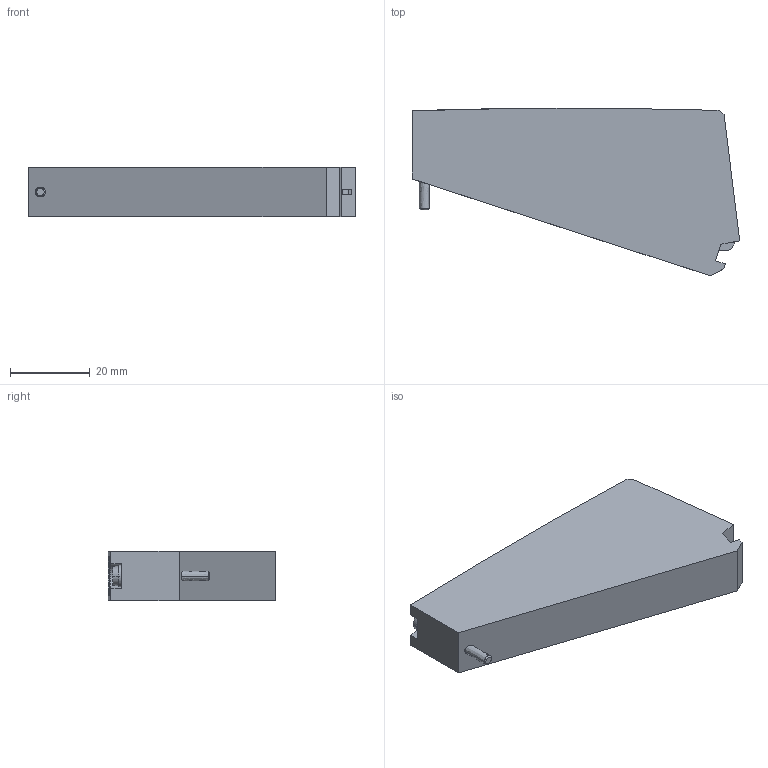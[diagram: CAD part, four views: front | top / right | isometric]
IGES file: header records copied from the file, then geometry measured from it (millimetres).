
Start section:  PTC IGES file: R422102425\r422102425.iges
Global section: file name: R422102425\r422102425.iges; native system: Creo Parametric by PTC Inc.; preprocessor: 2023092; author: GND7HC; organization: Unknown; date: 20240517.181037; units: millimetre
Bounding box: 81.99 x 42.01 x 12.3 mm (x, y, z)
Surface area: 7765.1 mm2 (no closed solid volume)
Topology: 0 solids, 0 shells, 56 faces, 276 edges, 270 vertices
Faces by surface type: revolution 28, bspline 28
